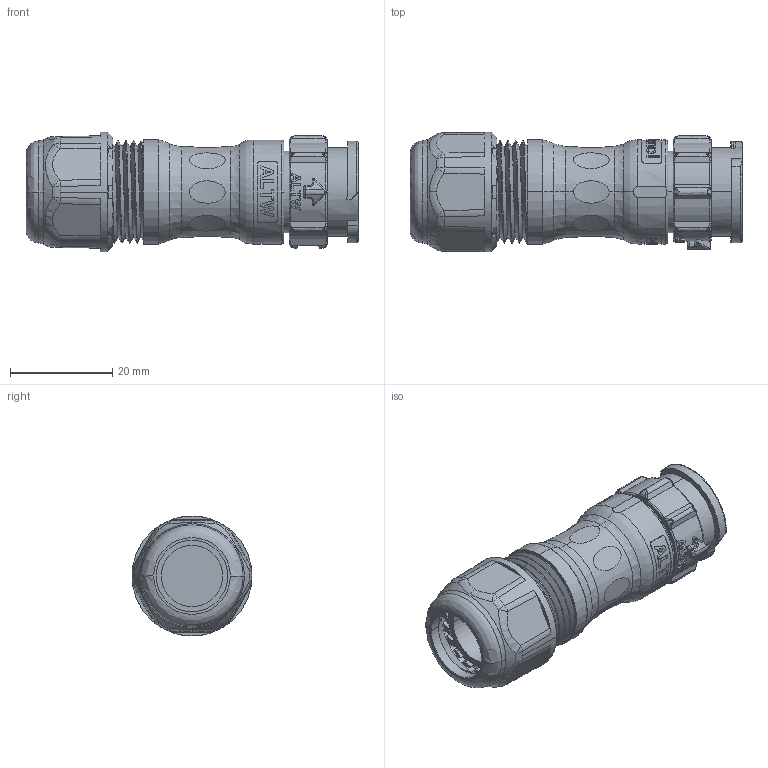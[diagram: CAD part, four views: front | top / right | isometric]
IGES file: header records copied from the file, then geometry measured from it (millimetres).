
Start section:  PTC IGES file: cd-xxbmfa-ql8xp0.igs
Global section: file name: cd-xxbmfa-ql8xp0.igs; native system: Creo Parametric by Parametric Technology Corporation; preprocessor: 2017170; author: L210038; organization: Unknown; date: 20211005.112656; units: millimetre
Bounding box: 65 x 23.48 x 23.48 mm (x, y, z)
Volume: 13338.1 mm3; surface area: 11019.1 mm2
Topology: 2 solids, 2 shells, 1111 faces, 2908 edges, 1846 vertices
Faces by surface type: bspline 473, revolution 367, extrusion 271
